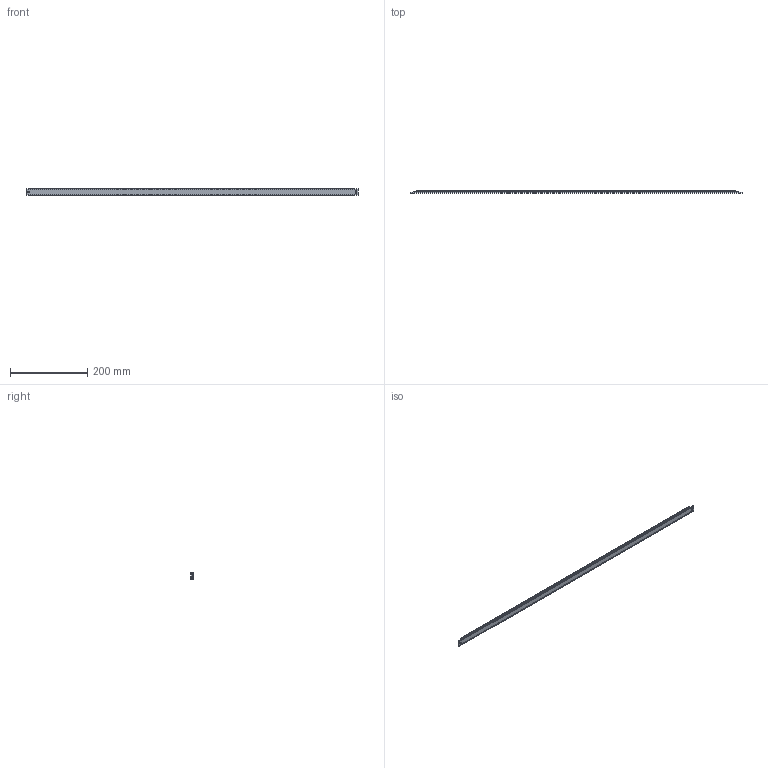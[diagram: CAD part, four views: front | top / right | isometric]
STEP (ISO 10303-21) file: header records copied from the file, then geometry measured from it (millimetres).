
FILE_DESCRIPTION (( 'STEP AP214' ), '1' );
FILE_NAME ('HLMScale.ScaleLength860.STEP', '2023-02-07T05:55:56', ( '' ), ( '' ), 'SwSTEP 2.0', 'SolidWorks 2020', '' );
FILE_SCHEMA (( 'AUTOMOTIVE_DESIGN' ));
Length unit declared in the file: millimetre
Products named in the file (1): HLMScale.ScaleLength860
Bounding box: 860 x 6.08 x 18 mm (x, y, z)
Volume: 86085.4 mm3; surface area: 47444.3 mm2
Topology: 1 solids, 1 shells, 56 faces, 149 edges, 98 vertices
Faces by surface type: plane 31, cylinder 25
Entity records: 1857 total; most frequent: CARTESIAN_POINT 412, ORIENTED_EDGE 298, DIRECTION 285, EDGE_CURVE 149, VECTOR 103, LINE 103, VERTEX_POINT 98, AXIS2_PLACEMENT_3D 91
